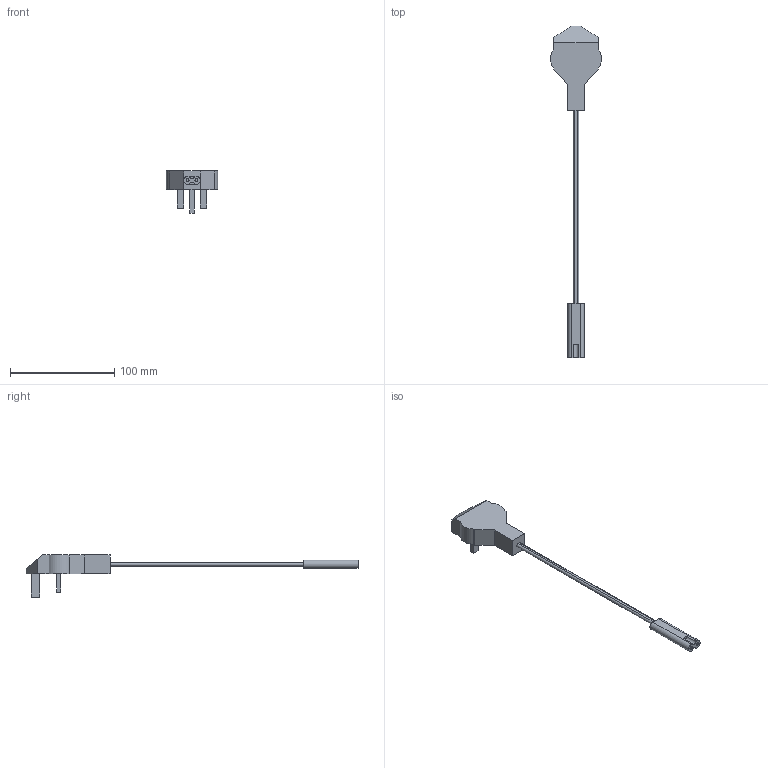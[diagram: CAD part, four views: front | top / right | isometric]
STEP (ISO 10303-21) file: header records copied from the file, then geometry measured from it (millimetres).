
FILE_DESCRIPTION( ( 'STEP AP214' ), '1' );
FILE_NAME( 'C:/Users/KOSH/Desktop/New folder/2021/Actiforce/Export/9309945.stp', '2021-12-03T09:55:54', ( '' ), ( '' ), ' ', 'PARTsolutions', ' ' );
FILE_SCHEMA( ( 'AUTOMOTIVE_DESIGN { 1 0 10303 214 1 1 1 1 }' ) );
Length unit declared in the file: millimetre
Products named in the file (1): _9309945
Bounding box: 49.37 x 319.17 x 40.5 mm (x, y, z)
Volume: 52832.9 mm3; surface area: 15370.8 mm2
Topology: 1 solids, 1 shells, 50 faces, 123 edges, 82 vertices
Faces by surface type: plane 40, cylinder 10
Full cylindrical faces by diameter (mm): 2.9 x2
Entity records: 1873 total; most frequent: CARTESIAN_POINT 254, DIRECTION 243, ORIENTED_EDGE 242, EDGE_CURVE 121, LINE 101, VECTOR 101, VERTEX_POINT 82, AXIS2_PLACEMENT_3D 71
